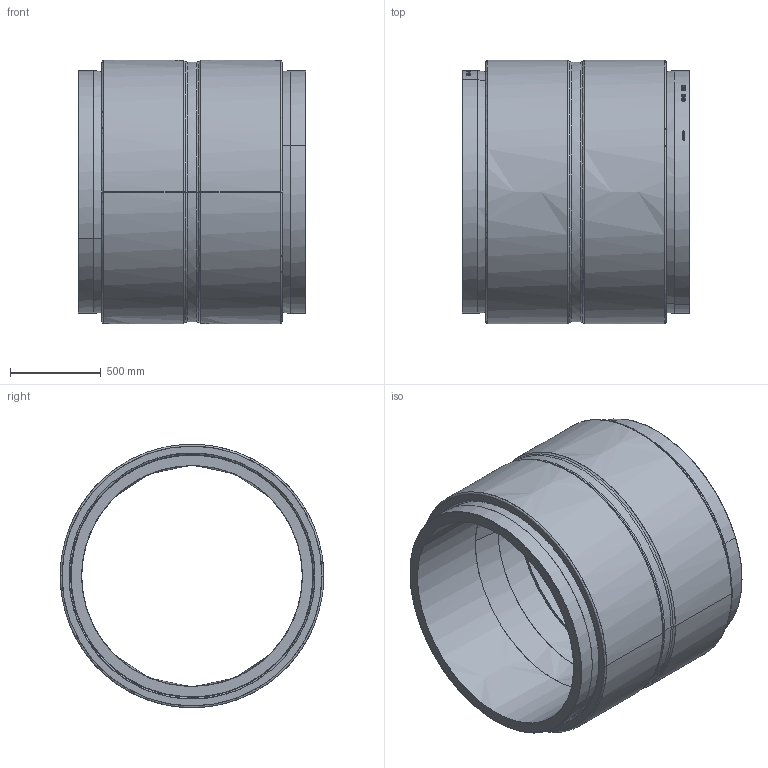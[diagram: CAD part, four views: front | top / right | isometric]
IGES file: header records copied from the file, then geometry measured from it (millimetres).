
Start section:  PTC IGES file: km-xl_d1200.igs
Global section: file name: km-xl_d1200.igs; native system: Pro/ENGINEER by Parametric Technology Corporation; preprocessor: 2011490; author: mtunjic; organization: Unknown; date: 20130923.112943; units: millimetre
Bounding box: 1250 x 1448 x 1448 mm (x, y, z)
Surface area: 16684864.1 mm2 (no closed solid volume)
Topology: 0 solids, 0 shells, 442 faces, 2088 edges, 2088 vertices
Faces by surface type: bspline 442
